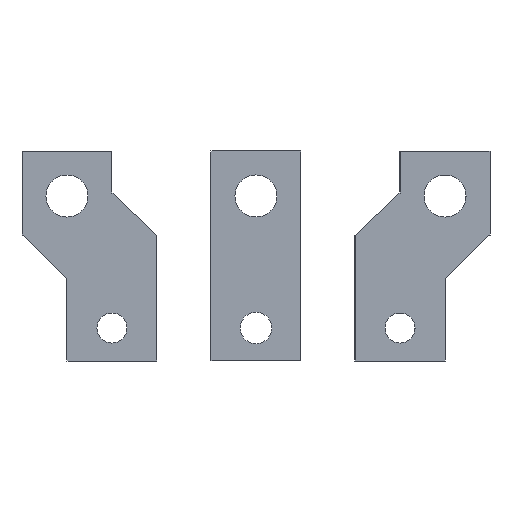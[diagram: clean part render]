
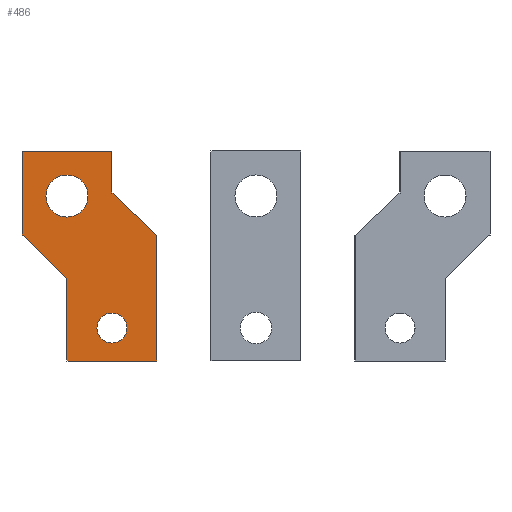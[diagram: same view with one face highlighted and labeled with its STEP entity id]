
A CAD part, front view. The second image highlights one B-rep face of the part: STEP entity #486.
In plain terms, the highlighted planar face has unit normal (0, -1, 0).
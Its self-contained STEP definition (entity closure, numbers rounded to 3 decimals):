
#23 = LINE ( 'NONE', #595, #338 ) ;
#27 = CARTESIAN_POINT ( 'NONE',  ( 0., 0., 0. ) ) ;
#30 = AXIS2_PLACEMENT_3D ( 'NONE', #652, #866, #501 ) ;
#33 = VERTEX_POINT ( 'NONE', #186 ) ;
#34 = LINE ( 'NONE', #904, #810 ) ;
#37 = ORIENTED_EDGE ( 'NONE', *, *, #930, .F. ) ;
#57 = CARTESIAN_POINT ( 'NONE',  ( 0., 0., -70. ) ) ;
#61 = CARTESIAN_POINT ( 'NONE',  ( -15., 0., 0. ) ) ;
#69 = VERTEX_POINT ( 'NONE', #61 ) ;
#72 = ORIENTED_EDGE ( 'NONE', *, *, #213, .F. ) ;
#76 = CARTESIAN_POINT ( 'NONE',  ( 15., 0., -14. ) ) ;
#77 = VERTEX_POINT ( 'NONE', #934 ) ;
#78 = VECTOR ( 'NONE', #332, 1000. ) ;
#81 = CARTESIAN_POINT ( 'NONE',  ( 15., 0., -14. ) ) ;
#88 = EDGE_CURVE ( 'NONE', #788, #471, #487, .T. ) ;
#103 = CARTESIAN_POINT ( 'NONE',  ( 30., 0., -70. ) ) ;
#115 = EDGE_CURVE ( 'NONE', #282, #33, #708, .T. ) ;
#129 = DIRECTION ( 'NONE',  ( 0., 0., -1. ) ) ;
#146 = LINE ( 'NONE', #81, #811 ) ;
#168 = CARTESIAN_POINT ( 'NONE',  ( 15., 0., -59. ) ) ;
#176 = ORIENTED_EDGE ( 'NONE', *, *, #599, .F. ) ;
#186 = CARTESIAN_POINT ( 'NONE',  ( 0., 0., -42.5 ) ) ;
#202 = FACE_BOUND ( 'NONE', #739, .T. ) ;
#213 = EDGE_CURVE ( 'NONE', #33, #445, #892, .T. ) ;
#214 = EDGE_CURVE ( 'NONE', #885, #496, #845, .T. ) ;
#220 = ORIENTED_EDGE ( 'NONE', *, *, #653, .F. ) ;
#232 = VERTEX_POINT ( 'NONE', #76 ) ;
#243 = DIRECTION ( 'NONE',  ( 0., -1., 0. ) ) ;
#255 = FACE_OUTER_BOUND ( 'NONE', #661, .T. ) ;
#276 = EDGE_CURVE ( 'NONE', #232, #745, #146, .T. ) ;
#282 = VERTEX_POINT ( 'NONE', #764 ) ;
#285 = ORIENTED_EDGE ( 'NONE', *, *, #322, .F. ) ;
#291 = VECTOR ( 'NONE', #592, 1000. ) ;
#292 = CARTESIAN_POINT ( 'NONE',  ( 0., 0., -42.5 ) ) ;
#297 = DIRECTION ( 'NONE',  ( 0., -1., 0. ) ) ;
#304 = LINE ( 'NONE', #103, #779 ) ;
#306 = CARTESIAN_POINT ( 'NONE',  ( 0., 0., -15. ) ) ;
#309 = DIRECTION ( 'NONE',  ( 1., 0., 0. ) ) ;
#322 = EDGE_CURVE ( 'NONE', #745, #681, #675, .T. ) ;
#330 = CARTESIAN_POINT ( 'NONE',  ( 30., 0., -28. ) ) ;
#332 = DIRECTION ( 'NONE',  ( 0., 0., 1. ) ) ;
#338 = VECTOR ( 'NONE', #393, 1000. ) ;
#341 = CARTESIAN_POINT ( 'NONE',  ( 7., 0., -15. ) ) ;
#362 = DIRECTION ( 'NONE',  ( 0.731, 0., -0.682 ) ) ;
#375 = DIRECTION ( 'NONE',  ( -1., 0., 0. ) ) ;
#379 = EDGE_CURVE ( 'NONE', #471, #788, #856, .T. ) ;
#384 = ORIENTED_EDGE ( 'NONE', *, *, #379, .F. ) ;
#390 = CARTESIAN_POINT ( 'NONE',  ( 30., 0., -28. ) ) ;
#393 = DIRECTION ( 'NONE',  ( 0., 0., 1. ) ) ;
#403 = DIRECTION ( 'NONE',  ( 0., 1., 0. ) ) ;
#440 = AXIS2_PLACEMENT_3D ( 'NONE', #306, #243, #541 ) ;
#445 = VERTEX_POINT ( 'NONE', #588 ) ;
#454 = ORIENTED_EDGE ( 'NONE', *, *, #827, .F. ) ;
#471 = VERTEX_POINT ( 'NONE', #757 ) ;
#486 = ADVANCED_FACE ( 'NONE', ( #202, #927, #255 ), #751, .F. ) ;
#487 = CIRCLE ( 'NONE', #30, 7. ) ;
#490 = ORIENTED_EDGE ( 'NONE', *, *, #276, .F. ) ;
#496 = VERTEX_POINT ( 'NONE', #539 ) ;
#501 = DIRECTION ( 'NONE',  ( -1., 0., 0. ) ) ;
#502 = ORIENTED_EDGE ( 'NONE', *, *, #214, .F. ) ;
#537 = ORIENTED_EDGE ( 'NONE', *, *, #830, .F. ) ;
#539 = CARTESIAN_POINT ( 'NONE',  ( 10., 0., -59. ) ) ;
#541 = DIRECTION ( 'NONE',  ( -1., 0., 0. ) ) ;
#567 = CARTESIAN_POINT ( 'NONE',  ( 15., 0., 0. ) ) ;
#588 = CARTESIAN_POINT ( 'NONE',  ( -15., 0., -28. ) ) ;
#590 = CIRCLE ( 'NONE', #760, 5. ) ;
#592 = DIRECTION ( 'NONE',  ( -0.719, 0., 0.695 ) ) ;
#594 = ORIENTED_EDGE ( 'NONE', *, *, #115, .F. ) ;
#595 = CARTESIAN_POINT ( 'NONE',  ( -15., 0., -28. ) ) ;
#598 = CARTESIAN_POINT ( 'NONE',  ( 20., 0., -59. ) ) ;
#599 = EDGE_CURVE ( 'NONE', #681, #282, #304, .T. ) ;
#604 = VECTOR ( 'NONE', #686, 1000. ) ;
#607 = DIRECTION ( 'NONE',  ( -1., 0., 0. ) ) ;
#625 = EDGE_LOOP ( 'NONE', ( #502, #454 ) ) ;
#652 = CARTESIAN_POINT ( 'NONE',  ( 0., 0., -15. ) ) ;
#653 = EDGE_CURVE ( 'NONE', #77, #232, #794, .T. ) ;
#658 = VECTOR ( 'NONE', #129, 1000. ) ;
#661 = EDGE_LOOP ( 'NONE', ( #537, #72, #594, #176, #285, #490, #220, #37 ) ) ;
#675 = LINE ( 'NONE', #390, #604 ) ;
#681 = VERTEX_POINT ( 'NONE', #938 ) ;
#686 = DIRECTION ( 'NONE',  ( 0., 0., -1. ) ) ;
#699 = DIRECTION ( 'NONE',  ( 1., 0., 0. ) ) ;
#708 = LINE ( 'NONE', #57, #78 ) ;
#739 = EDGE_LOOP ( 'NONE', ( #861, #384 ) ) ;
#743 = CARTESIAN_POINT ( 'NONE',  ( 15., 0., -59. ) ) ;
#745 = VERTEX_POINT ( 'NONE', #330 ) ;
#751 = PLANE ( 'NONE',  #791 ) ;
#757 = CARTESIAN_POINT ( 'NONE',  ( -7., 0., -15. ) ) ;
#760 = AXIS2_PLACEMENT_3D ( 'NONE', #168, #297, #766 ) ;
#764 = CARTESIAN_POINT ( 'NONE',  ( 0., 0., -70. ) ) ;
#766 = DIRECTION ( 'NONE',  ( -1., 0., 0. ) ) ;
#779 = VECTOR ( 'NONE', #607, 1000. ) ;
#788 = VERTEX_POINT ( 'NONE', #341 ) ;
#791 = AXIS2_PLACEMENT_3D ( 'NONE', #27, #403, #699 ) ;
#794 = LINE ( 'NONE', #567, #658 ) ;
#810 = VECTOR ( 'NONE', #309, 1000. ) ;
#811 = VECTOR ( 'NONE', #362, 1000. ) ;
#827 = EDGE_CURVE ( 'NONE', #496, #885, #590, .T. ) ;
#830 = EDGE_CURVE ( 'NONE', #445, #69, #23, .T. ) ;
#845 = CIRCLE ( 'NONE', #907, 5. ) ;
#856 = CIRCLE ( 'NONE', #440, 7. ) ;
#861 = ORIENTED_EDGE ( 'NONE', *, *, #88, .F. ) ;
#866 = DIRECTION ( 'NONE',  ( 0., -1., 0. ) ) ;
#885 = VERTEX_POINT ( 'NONE', #598 ) ;
#892 = LINE ( 'NONE', #292, #291 ) ;
#895 = DIRECTION ( 'NONE',  ( 0., -1., 0. ) ) ;
#904 = CARTESIAN_POINT ( 'NONE',  ( -15., 0., 0. ) ) ;
#907 = AXIS2_PLACEMENT_3D ( 'NONE', #743, #895, #375 ) ;
#927 = FACE_BOUND ( 'NONE', #625, .T. ) ;
#930 = EDGE_CURVE ( 'NONE', #69, #77, #34, .T. ) ;
#934 = CARTESIAN_POINT ( 'NONE',  ( 15., 0., 0. ) ) ;
#938 = CARTESIAN_POINT ( 'NONE',  ( 30., 0., -70. ) ) ;
